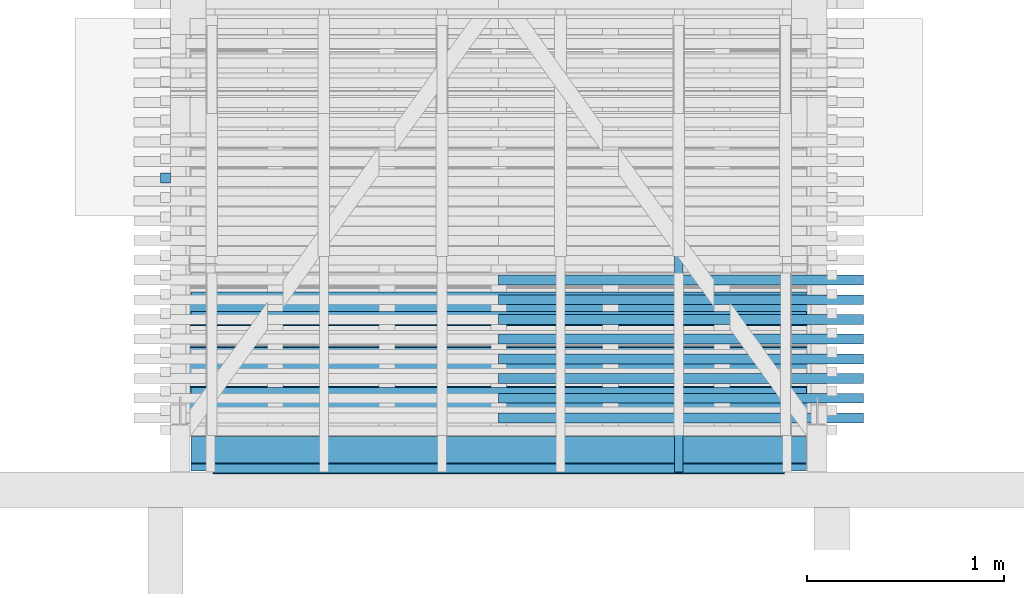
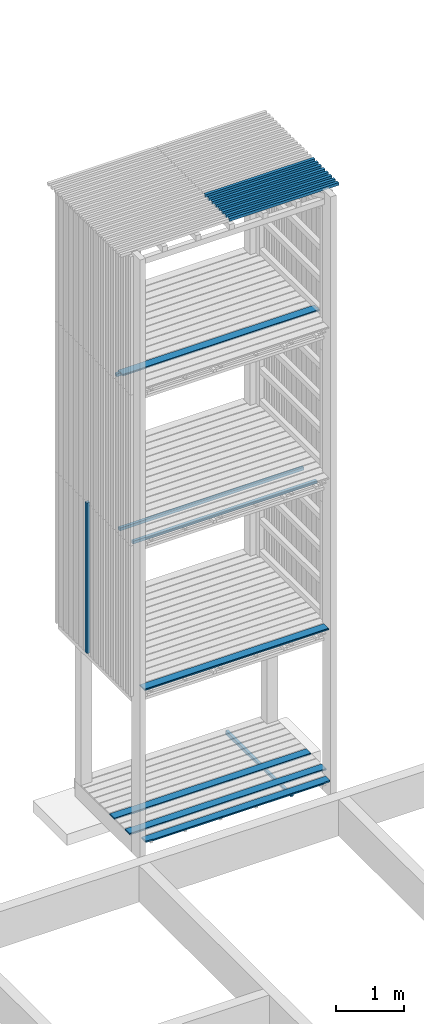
# One storey, part 140 of 182: 18 beams.
"""IFC2X3 building model written with IfcOpenShell, lengths in metres."""

from ifc_helpers import new_model, si_unit, frame, origin, place, context, project, spatial, faceted_brep, element, save


model = new_model("IFC2X3")

# Units and contexts
model_context = context("Model", 3, precision=1e-06, world=origin())
ifc_project = project(units=[si_unit("LENGTHUNIT", "METRE"), si_unit("PLANEANGLEUNIT", "RADIAN")], contexts=[model_context])

# Site, building, storey
site = spatial("IfcSite", under=ifc_project, CompositionType="ELEMENT")
building = spatial("IfcBuilding", under=site, CompositionType="ELEMENT")
storey = spatial("IfcBuildingStorey", under=building, Name="vs", CompositionType="ELEMENT", Elevation=-0.85)

# Beams
placement = place(None, origin())
beam_1_placement = place(placement, frame((36.569999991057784, 11.345077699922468, 10.47999999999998), z_axis=(0.0, 0.0, 1.0), x_axis=(-1.0, 0.0, 0.0)))
element("IfcBeam", 1, at=beam_1_placement, inside=storey, Name="Bardage", context=model_context, shape_type="Brep", body=[
    faceted_brep([(-3e-15, 0.025000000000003, 0.025000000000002), (-3e-15, -0.024999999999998, 0.025000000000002), (1.849999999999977, -0.024999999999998, 0.025000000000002), (1.849999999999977, 0.024999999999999, 0.025000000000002), (1.849999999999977, -0.024999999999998, 0.025000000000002), (-3e-15, -0.024999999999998, 0.025000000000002), (-3e-15, -0.024999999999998, -0.024999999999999), (1.849999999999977, -0.024999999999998, -0.024999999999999), (-3e-15, -0.024999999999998, 0.025000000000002), (-3e-15, 0.025000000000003, 0.025000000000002), (-3e-15, 0.025000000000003, -0.024999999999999), (-3e-15, -0.024999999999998, -0.024999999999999), (-3e-15, 0.025000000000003, -0.024999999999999), (-3e-15, 0.025000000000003, 0.025000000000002), (1.849999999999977, 0.024999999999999, 0.025000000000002), (1.849999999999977, 0.024999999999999, -0.024999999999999), (1.849999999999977, -0.024999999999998, -0.024999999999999), (-3e-15, -0.024999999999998, -0.024999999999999), (-3e-15, 0.025000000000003, -0.024999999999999), (1.849999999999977, 0.024999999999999, -0.024999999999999), (1.849999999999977, -0.024999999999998, 0.025000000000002), (1.849999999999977, -0.024999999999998, -0.024999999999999), (1.849999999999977, 0.024999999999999, -0.024999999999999), (1.849999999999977, 0.024999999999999, 0.025000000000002)], [[[0, 1, 2, 3]], [[4, 5, 6, 7]], [[8, 9, 10, 11]], [[12, 13, 14, 15]], [[16, 17, 18, 19]], [[20, 21, 22, 23]]]),
])
beam_2_placement = place(placement, frame((33.029999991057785, 11.961441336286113, 2.575000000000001), z_axis=(1.0, 0.0, 0.0), x_axis=(0.0, 0.0, 1.0)))
element("IfcBeam", 2, at=beam_2_placement, inside=storey, Name="Bardage", context=model_context, shape_type="Brep", body=[
    faceted_brep([(2.699961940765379, -0.024999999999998, 0.025000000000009), (2.699961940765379, -0.024999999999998, -0.025000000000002), (2.699961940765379, 0.024999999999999, -0.025000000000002), (2.699961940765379, 0.024999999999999, 0.025000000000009), (0.0, -0.024999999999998, 0.025000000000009), (2.699961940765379, -0.024999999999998, 0.025000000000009), (2.699961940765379, 0.024999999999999, 0.025000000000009), (0.0, 0.024999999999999, 0.025000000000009), (0.0, -0.024999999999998, 0.025000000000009), (0.0, 0.024999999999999, 0.025000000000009), (0.0, 0.024999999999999, -0.025000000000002), (0.0, -0.024999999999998, -0.025000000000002), (0.0, -0.024999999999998, 0.025000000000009), (0.0, -0.024999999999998, -0.025000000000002), (2.699961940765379, -0.024999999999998, -0.025000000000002), (2.699961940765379, -0.024999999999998, 0.025000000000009), (0.0, -0.024999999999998, -0.025000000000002), (0.0, 0.024999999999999, -0.025000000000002), (2.699961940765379, 0.024999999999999, -0.025000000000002), (2.699961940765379, -0.024999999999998, -0.025000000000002), (0.0, 0.024999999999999, -0.025000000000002), (0.0, 0.024999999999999, 0.025000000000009), (2.699961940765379, 0.024999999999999, 0.025000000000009), (2.699961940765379, 0.024999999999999, -0.025000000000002)], [[[0, 1, 2, 3]], [[4, 5, 6, 7]], [[8, 9, 10, 11]], [[12, 13, 14, 15]], [[16, 17, 18, 19]], [[20, 21, 22, 23]]]),
])
beam_3_placement = place(placement, frame((35.63299999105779, 10.470077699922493, -0.015599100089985), z_axis=(0.0, 0.0, 1.0), x_axis=(0.0, 1.0, 0.0)))
element("IfcBeam", 3, at=beam_3_placement, inside=storey, Name="Calage", context=model_context, shape_type="Brep", body=[
    faceted_brep([(0.0, 0.022499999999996, 0.002600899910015), (1.91000000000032, 0.022499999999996, -0.035599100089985), (1.91000000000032, -0.022500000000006, -0.035599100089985), (0.0, -0.022500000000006, 0.002600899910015), (0.0, -0.022500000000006, 0.035599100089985), (0.0, 0.022499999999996, 0.035599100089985), (0.0, 0.022499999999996, 0.002600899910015), (0.0, -0.022500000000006, 0.002600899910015), (0.0, 0.022499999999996, 0.035599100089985), (0.0, -0.022500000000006, 0.035599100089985), (1.91000000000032, -0.022500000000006, 0.035599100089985), (1.91000000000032, 0.022499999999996, 0.035599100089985), (0.0, 0.022499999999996, 0.002600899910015), (0.0, 0.022499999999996, 0.035599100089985), (1.91000000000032, 0.022499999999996, 0.035599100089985), (1.91000000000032, 0.022499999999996, -0.035599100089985), (1.91000000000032, 0.022499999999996, -0.035599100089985), (1.91000000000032, 0.022499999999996, 0.035599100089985), (1.91000000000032, -0.022500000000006, 0.035599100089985), (1.91000000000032, -0.022500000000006, -0.035599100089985), (1.91000000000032, -0.022500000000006, -0.035599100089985), (1.91000000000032, -0.022500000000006, 0.035599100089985), (0.0, -0.022500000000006, 0.035599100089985), (0.0, -0.022500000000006, 0.002600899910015)], [[[0, 1, 2, 3]], [[4, 5, 6, 7]], [[8, 9, 10, 11]], [[12, 13, 14, 15]], [[16, 17, 18, 19]], [[20, 21, 22, 23]]]),
])
beam_4_placement = place(placement, frame((36.569999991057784, 11.145077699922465, 10.47999999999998), z_axis=(0.0, 0.0, 1.0), x_axis=(-1.0, 0.0, 0.0)))
element("IfcBeam", 4, at=beam_4_placement, inside=storey, Name="Bardage", context=model_context, shape_type="Brep", body=[
    faceted_brep([(-3e-15, 0.024999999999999, 0.025000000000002), (-3e-15, -0.025000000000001, 0.025000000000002), (1.849999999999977, -0.025000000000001, 0.025000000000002), (1.849999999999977, 0.024999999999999, 0.025000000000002), (1.849999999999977, -0.025000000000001, 0.025000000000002), (-3e-15, -0.025000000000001, 0.025000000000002), (-3e-15, -0.025000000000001, -0.024999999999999), (1.849999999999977, -0.025000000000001, -0.024999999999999), (-3e-15, -0.025000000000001, 0.025000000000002), (-3e-15, 0.024999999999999, 0.025000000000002), (-3e-15, 0.024999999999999, -0.024999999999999), (-3e-15, -0.025000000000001, -0.024999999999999), (-3e-15, 0.024999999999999, -0.024999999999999), (-3e-15, 0.024999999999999, 0.025000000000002), (1.849999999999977, 0.024999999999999, 0.025000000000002), (1.849999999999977, 0.024999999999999, -0.024999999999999), (1.849999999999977, -0.025000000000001, -0.024999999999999), (-3e-15, -0.025000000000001, -0.024999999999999), (-3e-15, 0.024999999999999, -0.024999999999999), (1.849999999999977, 0.024999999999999, -0.024999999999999), (1.849999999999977, -0.025000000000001, 0.025000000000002), (1.849999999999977, -0.025000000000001, -0.024999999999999), (1.849999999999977, 0.024999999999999, -0.024999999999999), (1.849999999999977, 0.024999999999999, 0.025000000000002)], [[[0, 1, 2, 3]], [[4, 5, 6, 7]], [[8, 9, 10, 11]], [[12, 13, 14, 15]], [[16, 17, 18, 19]], [[20, 21, 22, 23]]]),
])
beam_5_placement = place(placement, frame((36.569999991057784, 10.745077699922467, 10.47999999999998), z_axis=(0.0, 0.0, 1.0), x_axis=(-1.0, 0.0, 0.0)))
element("IfcBeam", 5, at=beam_5_placement, inside=storey, Name="Bardage", context=model_context, shape_type="Brep", body=[
    faceted_brep([(-3e-15, 0.024999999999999, 0.025000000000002), (-3e-15, -0.024999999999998, 0.025000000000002), (1.849999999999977, -0.025000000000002, 0.025000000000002), (1.849999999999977, 0.024999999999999, 0.025000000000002), (1.849999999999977, -0.025000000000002, 0.025000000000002), (-3e-15, -0.024999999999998, 0.025000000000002), (-3e-15, -0.024999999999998, -0.024999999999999), (1.849999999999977, -0.025000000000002, -0.024999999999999), (-3e-15, -0.024999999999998, 0.025000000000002), (-3e-15, 0.024999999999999, 0.025000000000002), (-3e-15, 0.024999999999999, -0.024999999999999), (-3e-15, -0.024999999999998, -0.024999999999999), (-3e-15, 0.024999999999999, -0.024999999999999), (-3e-15, 0.024999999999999, 0.025000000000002), (1.849999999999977, 0.024999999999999, 0.025000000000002), (1.849999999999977, 0.024999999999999, -0.024999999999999), (1.849999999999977, -0.025000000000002, -0.024999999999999), (-3e-15, -0.024999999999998, -0.024999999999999), (-3e-15, 0.024999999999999, -0.024999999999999), (1.849999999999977, 0.024999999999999, -0.024999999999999), (1.849999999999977, -0.025000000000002, 0.025000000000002), (1.849999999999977, -0.025000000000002, -0.024999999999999), (1.849999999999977, 0.024999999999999, -0.024999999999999), (1.849999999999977, 0.024999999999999, 0.025000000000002)], [[[0, 1, 2, 3]], [[4, 5, 6, 7]], [[8, 9, 10, 11]], [[12, 13, 14, 15]], [[16, 17, 18, 19]], [[20, 21, 22, 23]]]),
])
beam_6_placement = place(placement, frame((36.569999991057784, 10.945077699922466, 10.47999999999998), z_axis=(0.0, 0.0, 1.0), x_axis=(-1.0, 2e-15, 0.0)))
element("IfcBeam", 6, at=beam_6_placement, inside=storey, Name="Bardage", context=model_context, shape_type="Brep", body=[
    faceted_brep([(-3e-15, 0.024999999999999, 0.025000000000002), (-3e-15, -0.025000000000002, 0.025000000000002), (1.849999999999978, -0.024999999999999, 0.025000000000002), (1.849999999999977, 0.025000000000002, 0.025000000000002), (1.849999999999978, -0.024999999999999, 0.025000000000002), (-3e-15, -0.025000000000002, 0.025000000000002), (-3e-15, -0.025000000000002, -0.024999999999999), (1.849999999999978, -0.024999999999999, -0.024999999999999), (-3e-15, -0.025000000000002, 0.025000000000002), (-3e-15, 0.024999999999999, 0.025000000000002), (-3e-15, 0.024999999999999, -0.024999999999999), (-3e-15, -0.025000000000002, -0.024999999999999), (-3e-15, 0.024999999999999, -0.024999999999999), (-3e-15, 0.024999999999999, 0.025000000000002), (1.849999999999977, 0.025000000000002, 0.025000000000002), (1.849999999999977, 0.025000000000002, -0.024999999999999), (1.849999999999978, -0.024999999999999, -0.024999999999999), (-3e-15, -0.025000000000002, -0.024999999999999), (-3e-15, 0.024999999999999, -0.024999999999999), (1.849999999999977, 0.025000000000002, -0.024999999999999), (1.849999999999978, -0.024999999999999, 0.025000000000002), (1.849999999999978, -0.024999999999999, -0.024999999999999), (1.849999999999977, 0.025000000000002, -0.024999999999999), (1.849999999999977, 0.025000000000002, 0.025000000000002)], [[[0, 1, 2, 3]], [[4, 5, 6, 7]], [[8, 9, 10, 11]], [[12, 13, 14, 15]], [[16, 17, 18, 19]], [[20, 21, 22, 23]]]),
])
beam_7_placement = place(placement, frame((36.569999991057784, 11.445077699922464, 10.47999999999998), z_axis=(0.0, 0.0, 1.0), x_axis=(-1.0, 2e-15, 0.0)))
element("IfcBeam", 7, at=beam_7_placement, inside=storey, Name="Bardage", context=model_context, shape_type="Brep", body=[
    faceted_brep([(-3e-15, 0.024999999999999, 0.025000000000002), (-3e-15, -0.025000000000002, 0.025000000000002), (1.849999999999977, -0.024999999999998, 0.025000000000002), (1.849999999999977, 0.025000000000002, 0.025000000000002), (1.849999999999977, -0.024999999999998, 0.025000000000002), (-3e-15, -0.025000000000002, 0.025000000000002), (-3e-15, -0.025000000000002, -0.024999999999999), (1.849999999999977, -0.024999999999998, -0.024999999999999), (-3e-15, -0.025000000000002, 0.025000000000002), (-3e-15, 0.024999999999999, 0.025000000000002), (-3e-15, 0.024999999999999, -0.024999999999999), (-3e-15, -0.025000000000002, -0.024999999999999), (-3e-15, 0.024999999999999, -0.024999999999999), (-3e-15, 0.024999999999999, 0.025000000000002), (1.849999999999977, 0.025000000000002, 0.025000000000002), (1.849999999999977, 0.025000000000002, -0.024999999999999), (1.849999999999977, -0.024999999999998, -0.024999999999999), (-3e-15, -0.025000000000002, -0.024999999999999), (-3e-15, 0.024999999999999, -0.024999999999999), (1.849999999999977, 0.025000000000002, -0.024999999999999), (1.849999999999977, -0.024999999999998, 0.025000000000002), (1.849999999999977, -0.024999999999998, -0.024999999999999), (1.849999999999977, 0.025000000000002, -0.024999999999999), (1.849999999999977, 0.025000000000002, 0.025000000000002)], [[[0, 1, 2, 3]], [[4, 5, 6, 7]], [[8, 9, 10, 11]], [[12, 13, 14, 15]], [[16, 17, 18, 19]], [[20, 21, 22, 23]]]),
])
beam_8_placement = place(placement, frame((36.569999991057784, 10.845077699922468, 10.47999999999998), z_axis=(0.0, 0.0, 1.0), x_axis=(-1.0, 0.0, 0.0)))
element("IfcBeam", 8, at=beam_8_placement, inside=storey, Name="Bardage", context=model_context, shape_type="Brep", body=[
    faceted_brep([(-3e-15, 0.025000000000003, 0.025000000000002), (-3e-15, -0.024999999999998, 0.025000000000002), (1.849999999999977, -0.024999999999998, 0.025000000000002), (1.849999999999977, 0.025000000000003, 0.025000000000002), (1.849999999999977, -0.024999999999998, 0.025000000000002), (-3e-15, -0.024999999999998, 0.025000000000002), (-3e-15, -0.024999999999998, -0.024999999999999), (1.849999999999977, -0.024999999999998, -0.024999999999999), (-3e-15, -0.024999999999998, 0.025000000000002), (-3e-15, 0.025000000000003, 0.025000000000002), (-3e-15, 0.025000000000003, -0.024999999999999), (-3e-15, -0.024999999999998, -0.024999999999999), (-3e-15, 0.025000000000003, -0.024999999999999), (-3e-15, 0.025000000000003, 0.025000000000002), (1.849999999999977, 0.025000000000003, 0.025000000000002), (1.849999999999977, 0.025000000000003, -0.024999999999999), (1.849999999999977, -0.024999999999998, -0.024999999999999), (-3e-15, -0.024999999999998, -0.024999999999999), (-3e-15, 0.025000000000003, -0.024999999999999), (1.849999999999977, 0.025000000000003, -0.024999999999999), (1.849999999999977, -0.024999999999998, 0.025000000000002), (1.849999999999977, -0.024999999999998, -0.024999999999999), (1.849999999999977, 0.025000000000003, -0.024999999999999), (1.849999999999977, 0.025000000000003, 0.025000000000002)], [[[0, 1, 2, 3]], [[4, 5, 6, 7]], [[8, 9, 10, 11]], [[12, 13, 14, 15]], [[16, 17, 18, 19]], [[20, 21, 22, 23]]]),
])
beam_9_placement = place(placement, frame((36.38499999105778, 10.834577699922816, 0.033500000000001), z_axis=(0.0, 0.0, 1.0), x_axis=(-1.0, 0.0, 0.0)))
element("IfcBeam", 9, at=beam_9_placement, inside=storey, Name="Caillebotis", context=model_context, shape_type="Brep", body=[
    faceted_brep([(3.329999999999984, -0.067500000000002, 0.0135), (3.329999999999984, -0.072499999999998, 0.008500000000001), (3.329999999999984, -0.072499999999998, -0.013500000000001), (3.329999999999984, 0.072499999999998, -0.013500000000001), (3.329999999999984, 0.072499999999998, 0.0085), (3.329999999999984, 0.067499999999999, 0.0135), (0.0, 0.067499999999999, 0.0135), (0.0, 0.072499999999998, 0.0085), (0.0, 0.072499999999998, -0.013500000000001), (0.0, -0.072500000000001, -0.013500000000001), (0.0, -0.072500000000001, 0.008500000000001), (0.0, -0.067500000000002, 0.0135), (3.329999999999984, -0.072499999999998, -0.013500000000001), (3.329999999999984, -0.072499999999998, 0.008500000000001), (0.0, -0.072500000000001, 0.008500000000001), (0.0, -0.072500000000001, -0.013500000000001), (3.329999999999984, 0.072499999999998, -0.013500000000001), (3.329999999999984, -0.072499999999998, -0.013500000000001), (0.0, -0.072500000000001, -0.013500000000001), (0.0, 0.072499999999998, -0.013500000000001), (3.329999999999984, 0.072499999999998, 0.0085), (3.329999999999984, 0.072499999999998, -0.013500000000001), (0.0, 0.072499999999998, -0.013500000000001), (0.0, 0.072499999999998, 0.0085), (3.329999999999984, 0.067499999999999, 0.0135), (3.329999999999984, 0.072499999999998, 0.0085), (0.0, 0.072499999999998, 0.0085), (0.0, 0.067499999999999, 0.0135), (3.329999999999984, -0.067500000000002, 0.0135), (3.329999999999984, 0.067499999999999, 0.0135), (0.0, 0.067499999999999, 0.0135), (0.0, -0.067500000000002, 0.0135), (0.0, -0.072500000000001, 0.008500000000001), (3.329999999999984, -0.072499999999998, 0.008500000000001), (3.329999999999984, -0.067500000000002, 0.0135), (0.0, -0.067500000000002, 0.0135)], [[[0, 1, 2, 3, 4, 5]], [[6, 7, 8, 9, 10, 11]], [[12, 13, 14, 15]], [[16, 17, 18, 19]], [[20, 21, 22, 23]], [[24, 25, 26, 27]], [[28, 29, 30, 31]], [[32, 33, 34, 35]]]),
])
beam_10_placement = place(placement, frame((36.27999999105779, 10.584577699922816, 2.733499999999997), z_axis=(0.0, 0.0, 1.0), x_axis=(-1.0, 0.0, 0.0)))
element("IfcBeam", 10, at=beam_10_placement, inside=storey, Name="Caillebotis", context=model_context, shape_type="Brep", body=[
    faceted_brep([(-3e-15, -0.072500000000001, 0.008500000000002), (-3e-15, -0.067500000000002, 0.0135), (-3e-15, 0.067499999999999, 0.0135), (-3e-15, 0.072499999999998, 0.0085), (-3e-15, 0.072499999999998, -0.0135), (-3e-15, -0.072500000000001, -0.0135), (-3e-15, 0.072499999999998, -0.0135), (-3e-15, 0.072499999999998, 0.0085), (3.120000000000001, 0.072499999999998, 0.0085), (3.120000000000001, 0.072499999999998, -0.0135), (-3e-15, -0.072500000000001, -0.0135), (-3e-15, 0.072499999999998, -0.0135), (3.120000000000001, 0.072499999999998, -0.0135), (3.120000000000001, -0.072500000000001, -0.0135), (-3e-15, -0.072500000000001, 0.008500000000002), (-3e-15, -0.072500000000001, -0.0135), (3.120000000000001, -0.072500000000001, -0.0135), (3.120000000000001, -0.072500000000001, 0.008500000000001), (-3e-15, -0.067500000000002, 0.0135), (-3e-15, -0.072500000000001, 0.008500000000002), (3.120000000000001, -0.072500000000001, 0.008500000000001), (3.120000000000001, -0.067500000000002, 0.0135), (-3e-15, 0.067499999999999, 0.0135), (-3e-15, -0.067500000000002, 0.0135), (3.120000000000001, -0.067500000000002, 0.0135), (3.120000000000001, 0.067499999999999, 0.0135), (-3e-15, 0.072499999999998, 0.0085), (-3e-15, 0.067499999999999, 0.0135), (3.120000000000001, 0.067499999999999, 0.0135), (3.120000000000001, 0.072499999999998, 0.0085), (3.120000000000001, -0.072500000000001, -0.0135), (3.120000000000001, 0.072499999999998, -0.0135), (3.120000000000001, 0.072499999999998, 0.0085), (3.120000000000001, 0.067499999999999, 0.0135), (3.120000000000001, -0.067500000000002, 0.0135), (3.120000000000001, -0.072500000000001, 0.008500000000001)], [[[0, 1, 2, 3, 4, 5]], [[6, 7, 8, 9]], [[10, 11, 12, 13]], [[14, 15, 16, 17]], [[18, 19, 20, 21]], [[22, 23, 24, 25]], [[26, 27, 28, 29]], [[30, 31, 32, 33, 34, 35]]]),
])
beam_11_placement = place(placement, frame((36.27999999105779, 10.873827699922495, 5.167999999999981), z_axis=(0.0, 0.0, 1.0), x_axis=(-1.0, 0.0, 0.0)))
element("IfcBeam", 11, at=beam_11_placement, inside=storey, Name="Bardage", context=model_context, shape_type="Brep", body=[
    faceted_brep([(3.120000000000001, 0.025000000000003, -0.025), (3.120000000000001, -0.024999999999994, -0.025), (-3e-15, -0.024999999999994, -0.025), (-3e-15, 0.025000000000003, -0.025), (-3e-15, -0.024999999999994, -0.025), (3.120000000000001, -0.024999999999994, -0.025), (3.120000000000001, -0.024999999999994, 0.025000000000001), (-3e-15, -0.024999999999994, 0.025000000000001), (3.120000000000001, -0.024999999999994, -0.025), (3.120000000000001, 0.025000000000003, -0.025), (3.120000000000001, 0.025000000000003, 0.025000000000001), (3.120000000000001, -0.024999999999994, 0.025000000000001), (3.120000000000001, 0.025000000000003, 0.025000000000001), (3.120000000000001, 0.025000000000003, -0.025), (-3e-15, 0.025000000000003, -0.025), (-3e-15, 0.025000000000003, 0.025000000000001), (-3e-15, -0.024999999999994, 0.025000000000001), (3.120000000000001, -0.024999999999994, 0.025000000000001), (3.120000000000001, 0.025000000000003, 0.025000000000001), (-3e-15, 0.025000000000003, 0.025000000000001), (-3e-15, -0.024999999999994, -0.025), (-3e-15, -0.024999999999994, 0.025000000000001), (-3e-15, 0.025000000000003, 0.025000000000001), (-3e-15, 0.025000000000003, -0.025)], [[[0, 1, 2, 3]], [[4, 5, 6, 7]], [[8, 9, 10, 11]], [[12, 13, 14, 15]], [[16, 17, 18, 19]], [[20, 21, 22, 23]]]),
])
beam_12_placement = place(placement, frame((36.569999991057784, 11.245077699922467, 10.47999999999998), z_axis=(0.0, 0.0, 1.0), x_axis=(-1.0, 0.0, 0.0)))
element("IfcBeam", 12, at=beam_12_placement, inside=storey, Name="Bardage", context=model_context, shape_type="Brep", body=[
    faceted_brep([(-3e-15, 0.024999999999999, 0.025000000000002), (-3e-15, -0.024999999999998, 0.025000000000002), (1.849999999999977, -0.024999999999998, 0.025000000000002), (1.849999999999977, 0.024999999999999, 0.025000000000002), (1.849999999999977, -0.024999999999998, 0.025000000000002), (-3e-15, -0.024999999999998, 0.025000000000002), (-3e-15, -0.024999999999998, -0.024999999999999), (1.849999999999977, -0.024999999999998, -0.024999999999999), (-3e-15, -0.024999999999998, 0.025000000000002), (-3e-15, 0.024999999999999, 0.025000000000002), (-3e-15, 0.024999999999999, -0.024999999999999), (-3e-15, -0.024999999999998, -0.024999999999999), (-3e-15, 0.024999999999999, -0.024999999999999), (-3e-15, 0.024999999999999, 0.025000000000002), (1.849999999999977, 0.024999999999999, 0.025000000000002), (1.849999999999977, 0.024999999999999, -0.024999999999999), (1.849999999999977, -0.024999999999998, -0.024999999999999), (-3e-15, -0.024999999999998, -0.024999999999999), (-3e-15, 0.024999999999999, -0.024999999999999), (1.849999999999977, 0.024999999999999, -0.024999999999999), (1.849999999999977, -0.024999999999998, 0.025000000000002), (1.849999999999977, -0.024999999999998, -0.024999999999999), (1.849999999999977, 0.024999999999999, -0.024999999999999), (1.849999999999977, 0.024999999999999, 0.025000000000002)], [[[0, 1, 2, 3]], [[4, 5, 6, 7]], [[8, 9, 10, 11]], [[12, 13, 14, 15]], [[16, 17, 18, 19]], [[20, 21, 22, 23]]]),
])
beam_13_placement = place(placement, frame((36.569999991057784, 11.045077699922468, 10.47999999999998), z_axis=(0.0, 0.0, 1.0), x_axis=(-1.0, 0.0, 0.0)))
element("IfcBeam", 13, at=beam_13_placement, inside=storey, Name="Bardage", context=model_context, shape_type="Brep", body=[
    faceted_brep([(-3e-15, 0.025000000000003, 0.025000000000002), (-3e-15, -0.024999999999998, 0.025000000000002), (1.849999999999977, -0.025000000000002, 0.025000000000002), (1.849999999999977, 0.025000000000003, 0.025000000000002), (1.849999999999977, -0.025000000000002, 0.025000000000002), (-3e-15, -0.024999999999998, 0.025000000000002), (-3e-15, -0.024999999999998, -0.024999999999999), (1.849999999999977, -0.025000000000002, -0.024999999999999), (-3e-15, -0.024999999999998, 0.025000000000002), (-3e-15, 0.025000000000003, 0.025000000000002), (-3e-15, 0.025000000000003, -0.024999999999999), (-3e-15, -0.024999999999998, -0.024999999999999), (-3e-15, 0.025000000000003, -0.024999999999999), (-3e-15, 0.025000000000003, 0.025000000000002), (1.849999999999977, 0.025000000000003, 0.025000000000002), (1.849999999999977, 0.025000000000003, -0.024999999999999), (1.849999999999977, -0.025000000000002, -0.024999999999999), (-3e-15, -0.024999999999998, -0.024999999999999), (-3e-15, 0.025000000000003, -0.024999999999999), (1.849999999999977, 0.025000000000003, -0.024999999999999), (1.849999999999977, -0.025000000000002, 0.025000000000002), (1.849999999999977, -0.025000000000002, -0.024999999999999), (1.849999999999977, 0.025000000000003, -0.024999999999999), (1.849999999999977, 0.025000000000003, 0.025000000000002)], [[[0, 1, 2, 3]], [[4, 5, 6, 7]], [[8, 9, 10, 11]], [[12, 13, 14, 15]], [[16, 17, 18, 19]], [[20, 21, 22, 23]]]),
])
beam_14_placement = place(placement, frame((36.27999999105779, 11.261327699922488, 5.167999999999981), z_axis=(0.0, 0.0, 1.0), x_axis=(-1.0, 0.0, 0.0)))
element("IfcBeam", 14, at=beam_14_placement, inside=storey, Name="Bardage", context=model_context, shape_type="Brep", body=[
    faceted_brep([(3.120000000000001, 0.024999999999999, -0.025), (3.120000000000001, -0.024999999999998, -0.025), (-3e-15, -0.025000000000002, -0.025), (-3e-15, 0.024999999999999, -0.025), (-3e-15, -0.025000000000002, -0.025), (3.120000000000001, -0.024999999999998, -0.025), (3.120000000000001, -0.024999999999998, 0.025000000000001), (-3e-15, -0.025000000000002, 0.025000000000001), (3.120000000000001, -0.024999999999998, -0.025), (3.120000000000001, 0.024999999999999, -0.025), (3.120000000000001, 0.024999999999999, 0.025000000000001), (3.120000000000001, -0.024999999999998, 0.025000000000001), (3.120000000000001, 0.024999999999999, 0.025000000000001), (3.120000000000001, 0.024999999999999, -0.025), (-3e-15, 0.024999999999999, -0.025), (-3e-15, 0.024999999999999, 0.025000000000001), (-3e-15, -0.025000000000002, 0.025000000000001), (3.120000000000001, -0.024999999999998, 0.025000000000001), (3.120000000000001, 0.024999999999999, 0.025000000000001), (-3e-15, 0.024999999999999, 0.025000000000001), (-3e-15, -0.025000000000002, -0.025), (-3e-15, -0.025000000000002, 0.025000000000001), (-3e-15, 0.024999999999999, 0.025000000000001), (-3e-15, 0.024999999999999, -0.025)], [[[0, 1, 2, 3]], [[4, 5, 6, 7]], [[8, 9, 10, 11]], [[12, 13, 14, 15]], [[16, 17, 18, 19]], [[20, 21, 22, 23]]]),
])
beam_15_placement = place(placement, frame((36.27999999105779, 10.534577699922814, 0.033500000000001), z_axis=(0.0, 0.0, 1.0), x_axis=(-1.0, 0.0, 0.0)))
element("IfcBeam", 15, at=beam_15_placement, inside=storey, Name="Caillebotis", context=model_context, shape_type="Brep", body=[
    faceted_brep([(0.109999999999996, 0.072499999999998, 0.0085), (3.010000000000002, 0.072499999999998, 0.0085), (3.010000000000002, 0.072499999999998, -0.013500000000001), (0.109999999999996, 0.072499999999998, -0.0135), (0.109999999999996, 0.067499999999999, 0.0135), (3.010000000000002, 0.067499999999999, 0.0135), (3.010000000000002, 0.072499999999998, 0.0085), (0.109999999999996, 0.072499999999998, 0.0085), (0.109999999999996, 0.05950000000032, 0.0135), (0.109999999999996, 0.067499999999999, 0.0135), (0.109999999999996, 0.072499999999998, 0.0085), (0.109999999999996, 0.072499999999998, -0.0135), (0.109999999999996, 0.05950000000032, -0.0135), (0.109999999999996, 0.05950000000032, 0.0135), (0.109999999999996, 0.05950000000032, -0.0135), (-3e-15, 0.05950000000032, -0.0135), (-3e-15, 0.05950000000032, 0.0135), (-3e-15, -0.072500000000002, 0.008500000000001), (3.120000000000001, -0.072500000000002, 0.008500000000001), (3.120000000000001, -0.067500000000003, 0.0135), (-3e-15, -0.067500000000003, 0.0135), (-3e-15, -0.072500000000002, -0.0135), (-3e-15, -0.072500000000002, 0.008500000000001), (-3e-15, -0.067500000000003, 0.0135), (-3e-15, 0.05950000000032, 0.0135), (-3e-15, 0.05950000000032, -0.0135), (3.010000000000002, 0.067499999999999, 0.0135), (0.109999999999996, 0.067499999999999, 0.0135), (0.109999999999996, 0.05950000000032, 0.0135), (-3e-15, 0.05950000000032, 0.0135), (-3e-15, -0.067500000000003, 0.0135), (3.120000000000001, -0.067500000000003, 0.0135), (3.120000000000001, 0.05950000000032, 0.0135), (3.010000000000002, 0.05950000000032, 0.0135), (3.010000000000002, 0.05950000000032, -0.013500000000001), (3.010000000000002, 0.072499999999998, -0.013500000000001), (3.010000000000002, 0.072499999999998, 0.0085), (3.010000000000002, 0.067499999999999, 0.0135), (3.010000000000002, 0.05950000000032, 0.0135), (3.010000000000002, 0.05950000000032, -0.013500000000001), (3.010000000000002, 0.05950000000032, 0.0135), (3.120000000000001, 0.05950000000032, 0.0135), (3.120000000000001, 0.05950000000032, -0.013500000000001), (-3e-15, -0.072500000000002, -0.0135), (-3e-15, 0.05950000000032, -0.0135), (0.109999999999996, 0.05950000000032, -0.0135), (0.109999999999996, 0.072499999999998, -0.0135), (3.010000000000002, 0.072499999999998, -0.013500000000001), (3.010000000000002, 0.05950000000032, -0.013500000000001), (3.120000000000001, 0.05950000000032, -0.013500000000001), (3.120000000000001, -0.072500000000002, -0.013500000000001), (-3e-15, -0.072500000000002, 0.008500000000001), (-3e-15, -0.072500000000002, -0.0135), (3.120000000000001, -0.072500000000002, -0.013500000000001), (3.120000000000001, -0.072500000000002, 0.008500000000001), (3.120000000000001, 0.05950000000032, 0.0135), (3.120000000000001, -0.067500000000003, 0.0135), (3.120000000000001, -0.072500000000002, 0.008500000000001), (3.120000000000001, -0.072500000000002, -0.013500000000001), (3.120000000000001, 0.05950000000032, -0.013500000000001)], [[[0, 1, 2, 3]], [[4, 5, 6, 7]], [[8, 9, 10, 11, 12]], [[13, 14, 15, 16]], [[17, 18, 19, 20]], [[21, 22, 23, 24, 25]], [[26, 27, 28, 29, 30, 31, 32, 33]], [[34, 35, 36, 37, 38]], [[39, 40, 41, 42]], [[43, 44, 45, 46, 47, 48, 49, 50]], [[51, 52, 53, 54]], [[55, 56, 57, 58, 59]]]),
])
beam_16_placement = place(placement, frame((36.27999999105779, 11.358202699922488, 7.867999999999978), z_axis=(0.0, 0.0, 1.0), x_axis=(-1.0, -1e-15, 0.0)))
element("IfcBeam", 16, at=beam_16_placement, inside=storey, Name="Bardage", context=model_context, shape_type="Brep", body=[
    faceted_brep([(3.120000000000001, 0.024999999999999, -0.025000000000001), (3.120000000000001, -0.025000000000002, -0.025000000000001), (-3e-15, -0.025000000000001, -0.025000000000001), (-3e-15, 0.025000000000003, -0.025000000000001), (-3e-15, -0.025000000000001, -0.025000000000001), (3.120000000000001, -0.025000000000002, -0.025000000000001), (3.120000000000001, -0.025000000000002, 0.024999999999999), (-3e-15, -0.025000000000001, 0.024999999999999), (3.120000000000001, -0.025000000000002, -0.025000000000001), (3.120000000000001, 0.024999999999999, -0.025000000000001), (3.120000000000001, 0.024999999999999, 0.024999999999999), (3.120000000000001, -0.025000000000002, 0.024999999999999), (3.120000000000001, 0.024999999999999, 0.024999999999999), (3.120000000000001, 0.024999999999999, -0.025000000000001), (-3e-15, 0.025000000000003, -0.025000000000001), (-3e-15, 0.025000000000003, 0.024999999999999), (-3e-15, -0.025000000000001, 0.024999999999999), (3.120000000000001, -0.025000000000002, 0.024999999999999), (3.120000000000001, 0.024999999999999, 0.024999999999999), (-3e-15, 0.025000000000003, 0.024999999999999), (-3e-15, -0.025000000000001, -0.025000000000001), (-3e-15, -0.025000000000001, 0.024999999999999), (-3e-15, 0.025000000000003, 0.024999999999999), (-3e-15, 0.025000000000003, -0.025000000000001)], [[[0, 1, 2, 3]], [[4, 5, 6, 7]], [[8, 9, 10, 11]], [[12, 13, 14, 15]], [[16, 17, 18, 19]], [[20, 21, 22, 23]]]),
])
beam_17_placement = place(placement, frame((36.384999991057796, 11.034577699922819, 8.13349999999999), z_axis=(0.0, 0.0, 1.0), x_axis=(-1.0, -1e-15, 0.0)))
element("IfcBeam", 17, at=beam_17_placement, inside=storey, Name="Caillebotis", context=model_context, shape_type="Brep", body=[
    faceted_brep([(3.329999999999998, -0.072500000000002, -0.013500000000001), (3.329999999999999, 0.072500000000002, -0.013500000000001), (3.329999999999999, 0.072500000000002, 0.008499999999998), (3.329999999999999, 0.067499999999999, 0.013499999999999), (3.329999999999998, -0.067499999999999, 0.013499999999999), (3.329999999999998, -0.072500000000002, 0.0085), (0.0, -0.072499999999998, 0.0085), (0.0, -0.067499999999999, 0.013499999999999), (0.0, 0.067500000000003, 0.013499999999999), (0.0, 0.072500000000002, 0.008499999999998), (0.0, 0.072500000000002, -0.013500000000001), (0.0, -0.072499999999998, -0.013500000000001), (3.329999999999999, 0.072500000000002, 0.008499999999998), (3.329999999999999, 0.072500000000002, -0.013500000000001), (0.0, 0.072500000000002, -0.013500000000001), (0.0, 0.072500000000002, 0.008499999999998), (3.329999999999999, 0.067499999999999, 0.013499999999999), (3.329999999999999, 0.072500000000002, 0.008499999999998), (0.0, 0.072500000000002, 0.008499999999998), (0.0, 0.067500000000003, 0.013499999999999), (3.329999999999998, -0.067499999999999, 0.013499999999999), (3.329999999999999, 0.067499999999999, 0.013499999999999), (0.0, 0.067500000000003, 0.013499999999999), (0.0, -0.067499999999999, 0.013499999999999), (3.329999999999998, -0.072500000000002, 0.0085), (3.329999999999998, -0.067499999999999, 0.013499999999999), (0.0, -0.067499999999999, 0.013499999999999), (0.0, -0.072499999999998, 0.0085), (3.329999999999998, -0.072500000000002, -0.013500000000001), (3.329999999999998, -0.072500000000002, 0.0085), (0.0, -0.072499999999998, 0.0085), (0.0, -0.072499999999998, -0.013500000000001), (0.0, 0.072500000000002, -0.013500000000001), (3.329999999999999, 0.072500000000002, -0.013500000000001), (3.329999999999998, -0.072500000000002, -0.013500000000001), (0.0, -0.072499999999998, -0.013500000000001)], [[[0, 1, 2, 3, 4, 5]], [[6, 7, 8, 9, 10, 11]], [[12, 13, 14, 15]], [[16, 17, 18, 19]], [[20, 21, 22, 23]], [[24, 25, 26, 27]], [[28, 29, 30, 31]], [[32, 33, 34, 35]]]),
])
beam_18_placement = place(placement, frame((36.38499999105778, 11.284577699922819, 0.033500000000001), z_axis=(0.0, 0.0, 1.0), x_axis=(-1.0, -1e-15, 0.0)))
element("IfcBeam", 18, at=beam_18_placement, inside=storey, Name="Caillebotis", context=model_context, shape_type="Brep", body=[
    faceted_brep([(3.329999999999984, -0.067499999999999, 0.0135), (3.329999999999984, -0.072500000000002, 0.008500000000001), (3.329999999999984, -0.072500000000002, -0.013500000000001), (3.329999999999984, 0.072500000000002, -0.013500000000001), (3.329999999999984, 0.072500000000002, 0.0085), (3.329999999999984, 0.067499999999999, 0.0135), (0.0, 0.067500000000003, 0.0135), (0.0, 0.072500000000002, 0.0085), (0.0, 0.072500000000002, -0.013500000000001), (0.0, -0.072499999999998, -0.013500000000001), (0.0, -0.072499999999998, 0.008500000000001), (0.0, -0.067499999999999, 0.0135), (3.329999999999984, -0.072500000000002, -0.013500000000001), (3.329999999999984, -0.072500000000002, 0.008500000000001), (0.0, -0.072499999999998, 0.008500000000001), (0.0, -0.072499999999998, -0.013500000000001), (3.329999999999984, 0.072500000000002, -0.013500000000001), (3.329999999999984, -0.072500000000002, -0.013500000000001), (0.0, -0.072499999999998, -0.013500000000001), (0.0, 0.072500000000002, -0.013500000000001), (3.329999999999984, 0.072500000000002, 0.0085), (3.329999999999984, 0.072500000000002, -0.013500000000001), (0.0, 0.072500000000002, -0.013500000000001), (0.0, 0.072500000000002, 0.0085), (3.329999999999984, 0.067499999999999, 0.0135), (3.329999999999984, 0.072500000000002, 0.0085), (0.0, 0.072500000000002, 0.0085), (0.0, 0.067500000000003, 0.0135), (3.329999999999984, -0.067499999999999, 0.0135), (3.329999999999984, 0.067499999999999, 0.0135), (0.0, 0.067500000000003, 0.0135), (0.0, -0.067499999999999, 0.0135), (0.0, -0.072499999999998, 0.008500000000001), (3.329999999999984, -0.072500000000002, 0.008500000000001), (3.329999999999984, -0.067499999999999, 0.0135), (0.0, -0.067499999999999, 0.0135)], [[[0, 1, 2, 3, 4, 5]], [[6, 7, 8, 9, 10, 11]], [[12, 13, 14, 15]], [[16, 17, 18, 19]], [[20, 21, 22, 23]], [[24, 25, 26, 27]], [[28, 29, 30, 31]], [[32, 33, 34, 35]]]),
])

save(model, "model.ifc")
